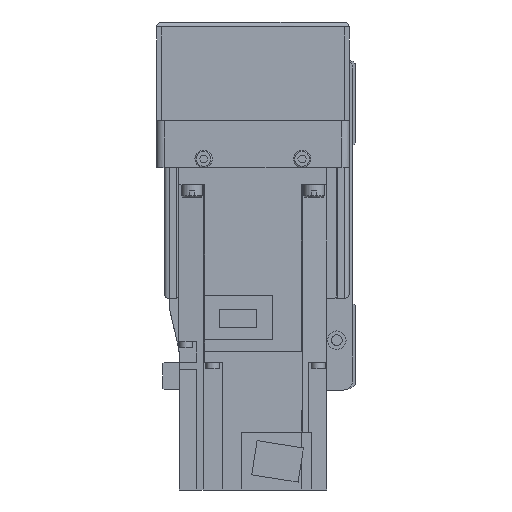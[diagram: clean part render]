
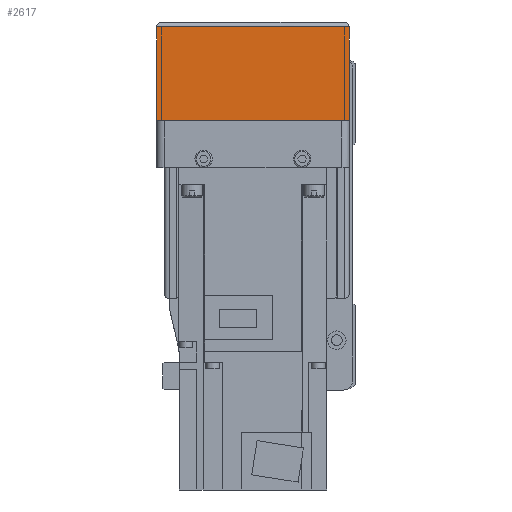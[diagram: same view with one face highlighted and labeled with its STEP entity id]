
A CAD part, left-side view. The second image highlights one B-rep face of the part: STEP entity #2617.
In plain terms, the highlighted planar face has unit normal (-1, 0, 0).
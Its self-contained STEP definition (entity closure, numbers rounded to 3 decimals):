
#2617 = ADVANCED_FACE( '', ( #5504 ), #5505, .F. );
#5504 = FACE_OUTER_BOUND( '', #8563, .T. );
#5505 = PLANE( '', #8564 );
#8563 = EDGE_LOOP( '', ( #15947, #15948, #15949, #15950 ) );
#8564 = AXIS2_PLACEMENT_3D( '', #15951, #15952, #15953 );
#15947 = ORIENTED_EDGE( '', *, *, #20478, .F. );
#15948 = ORIENTED_EDGE( '', *, *, #20096, .F. );
#15949 = ORIENTED_EDGE( '', *, *, #19719, .T. );
#15950 = ORIENTED_EDGE( '', *, *, #20479, .F. );
#15951 = CARTESIAN_POINT( '', ( -158., 36., 7. ) );
#15952 = DIRECTION( '', ( 1., 0., 0. ) );
#15953 = DIRECTION( '', ( 0., 0., -1. ) );
#19719 = EDGE_CURVE( '', #24332, #24278, #24336, .T. );
#20096 = EDGE_CURVE( '', #24332, #21915, #24829, .T. );
#20478 = EDGE_CURVE( '', #21915, #25285, #25286, .T. );
#20479 = EDGE_CURVE( '', #25285, #24278, #25287, .T. );
#21915 = VERTEX_POINT( '', #27225 );
#24278 = VERTEX_POINT( '', #30615 );
#24332 = VERTEX_POINT( '', #30690 );
#24336 = LINE( '', #30695, #30696 );
#24829 = LINE( '', #31461, #31462 );
#25285 = VERTEX_POINT( '', #32152 );
#25286 = LINE( '', #32153, #32154 );
#25287 = LINE( '', #32155, #32156 );
#27225 = CARTESIAN_POINT( '', ( -158., 39., -12.1 ) );
#30615 = CARTESIAN_POINT( '', ( -158., -39., -50. ) );
#30690 = CARTESIAN_POINT( '', ( -158., 39., -50. ) );
#30695 = CARTESIAN_POINT( '', ( -158., 40., -50. ) );
#30696 = VECTOR( '', #35289, 1000. );
#31461 = CARTESIAN_POINT( '', ( -158., 39., -50. ) );
#31462 = VECTOR( '', #35675, 1000. );
#32152 = CARTESIAN_POINT( '', ( -158., -39., -12.1 ) );
#32153 = CARTESIAN_POINT( '', ( -158., 50., -12.1 ) );
#32154 = VECTOR( '', #36047, 1000. );
#32155 = CARTESIAN_POINT( '', ( -158., -39., -12.1 ) );
#32156 = VECTOR( '', #36048, 1000. );
#35289 = DIRECTION( '', ( 0., -1., 0. ) );
#35675 = DIRECTION( '', ( 0., 0., 1. ) );
#36047 = DIRECTION( '', ( 0., -1., 0. ) );
#36048 = DIRECTION( '', ( 0., 0., -1. ) );
